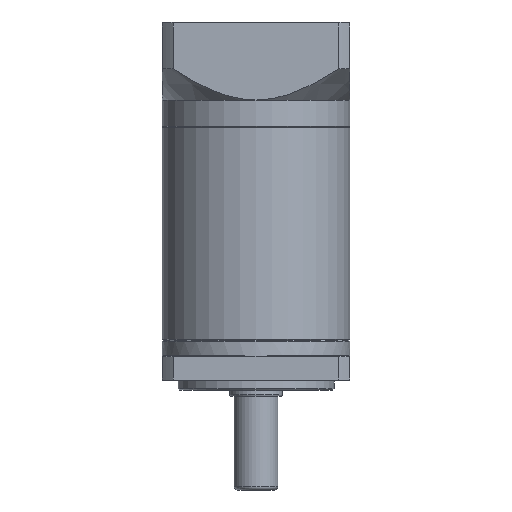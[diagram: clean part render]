
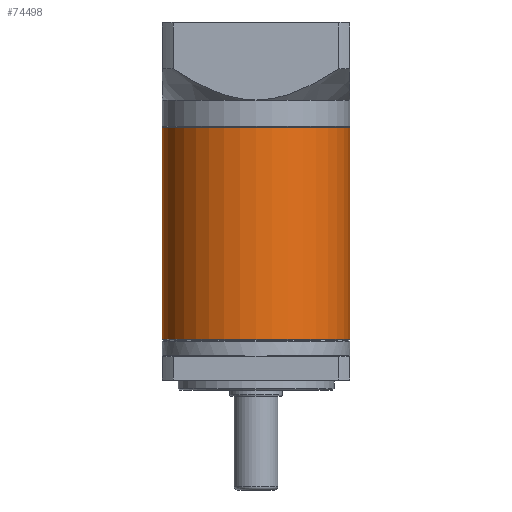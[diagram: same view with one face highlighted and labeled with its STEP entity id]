
A CAD part, front view. The second image highlights one B-rep face of the part: STEP entity #74498.
In plain terms, the highlighted cylindrical face has radius 30 mm (diameter 60 mm), a partial arc.
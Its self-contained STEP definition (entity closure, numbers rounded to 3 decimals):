
#1033 = EDGE_CURVE ( 'NONE', #34000, #91630, #67954, .T. ) ;
#2957 = ORIENTED_EDGE ( 'NONE', *, *, #13227, .T. ) ;
#6138 = ORIENTED_EDGE ( 'NONE', *, *, #1033, .F. ) ;
#6355 = CIRCLE ( 'NONE', #92745, 30. ) ;
#9019 = VECTOR ( 'NONE', #89920, 1000. ) ;
#11004 = EDGE_CURVE ( 'NONE', #34000, #65495, #93494, .T. ) ;
#13227 = EDGE_CURVE ( 'NONE', #65495, #25140, #60122, .T. ) ;
#14745 = CARTESIAN_POINT ( 'NONE',  ( 1.856, 2.135, 53.9 ) ) ;
#16883 = DIRECTION ( 'NONE',  ( 0., 0., -1. ) ) ;
#17269 = CARTESIAN_POINT ( 'NONE',  ( -28.144, 2.135, 53.9 ) ) ;
#22159 = DIRECTION ( 'NONE',  ( 1., 0., 0. ) ) ;
#24303 = CARTESIAN_POINT ( 'NONE',  ( -28.144, 2.135, 121.95 ) ) ;
#25140 = VERTEX_POINT ( 'NONE', #17269 ) ;
#25787 = CARTESIAN_POINT ( 'NONE',  ( -28.144, 2.135, 121.7 ) ) ;
#27557 = CARTESIAN_POINT ( 'NONE',  ( 31.856, 2.135, 121.7 ) ) ;
#29298 = AXIS2_PLACEMENT_3D ( 'NONE', #78241, #33942, #85712 ) ;
#30734 = CARTESIAN_POINT ( 'NONE',  ( 31.856, 2.135, 121.95 ) ) ;
#32103 = DIRECTION ( 'NONE',  ( 0., 0., -1. ) ) ;
#32420 = DIRECTION ( 'NONE',  ( -1., 0., 0. ) ) ;
#33942 = DIRECTION ( 'NONE',  ( 0., 0., -1. ) ) ;
#34000 = VERTEX_POINT ( 'NONE', #27557 ) ;
#49706 = CARTESIAN_POINT ( 'NONE',  ( 31.856, 2.135, 53.9 ) ) ;
#59648 = EDGE_CURVE ( 'NONE', #25140, #91630, #6355, .T. ) ;
#60122 = LINE ( 'NONE', #24303, #79884 ) ;
#65495 = VERTEX_POINT ( 'NONE', #25787 ) ;
#66382 = DIRECTION ( 'NONE',  ( 0., 0., 1. ) ) ;
#67954 = LINE ( 'NONE', #30734, #9019 ) ;
#73467 = ORIENTED_EDGE ( 'NONE', *, *, #59648, .T. ) ;
#74498 = ADVANCED_FACE ( 'NONE', ( #90326 ), #81044, .T. ) ;
#76102 = ORIENTED_EDGE ( 'NONE', *, *, #11004, .T. ) ;
#76720 = CARTESIAN_POINT ( 'NONE',  ( 1.856, 2.135, 121.95 ) ) ;
#78241 = CARTESIAN_POINT ( 'NONE',  ( 1.856, 2.135, 121.7 ) ) ;
#79884 = VECTOR ( 'NONE', #16883, 1000. ) ;
#81044 = CYLINDRICAL_SURFACE ( 'NONE', #90897, 30. ) ;
#84680 = EDGE_LOOP ( 'NONE', ( #6138, #76102, #2957, #73467 ) ) ;
#85712 = DIRECTION ( 'NONE',  ( 1., 0., 0. ) ) ;
#89920 = DIRECTION ( 'NONE',  ( 0., 0., -1. ) ) ;
#90326 = FACE_OUTER_BOUND ( 'NONE', #84680, .T. ) ;
#90897 = AXIS2_PLACEMENT_3D ( 'NONE', #76720, #32103, #32420 ) ;
#91630 = VERTEX_POINT ( 'NONE', #49706 ) ;
#92745 = AXIS2_PLACEMENT_3D ( 'NONE', #14745, #66382, #22159 ) ;
#93494 = CIRCLE ( 'NONE', #29298, 30. ) ;
